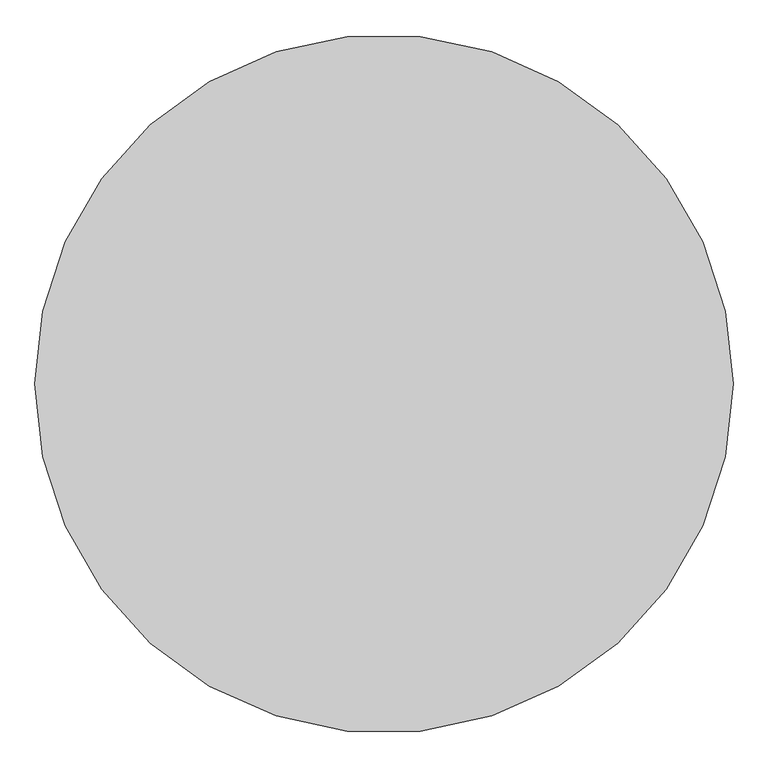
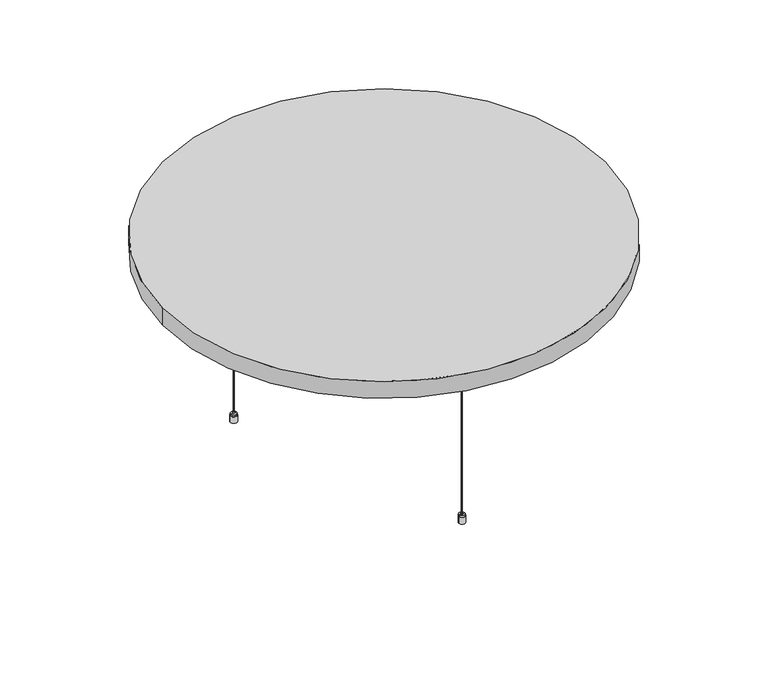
"""IFC4 building model written with IfcOpenShell, lengths in millimetres: proxy geometry, OWA Selecta : Selecta loop 1000."""

from ifc_helpers import new_model, si_unit, point, frame, frame_2d, origin, place, context, project, spatial, polyline, circle_curve, trimmed, segment, composite_curve, outline, extrude, source, transform, mapped, element, save
from ifc_brep_helpers import plane_surface, cylinder_surface, revolved_surface, advanced_brep


def specialty_equipment_8dedf9e6(model_context):
    return source(origin(), model_context, "Body", "SolidModel", [
        advanced_brep(
        [(-433.5, -305.0, 0.0), (-441.2406175, -305.0, 0.0), (-425.7593825, -305.0, 0.0), (-441.2406175, -305.0, 15.0), (-425.7593825, -305.0, 15.0), (-440.3156175, -305.0, 15.0), (-426.6843825, -305.0, 15.0), (-440.3156175, -305.0, 19.0), (-426.6843825, -305.0, 19.0), (-435.5656175, -305.0, 19.0), (-431.4343825, -305.0, 19.0), (-435.5656175, -305.0, 22.546183), (-431.4343825, -305.0, 22.546183), (-433.5, -305.0, 22.546183)],
        [
            (0, 1),
            (1, 2, circle_curve(frame((-433.5, -305.0, 0.0), z_axis=(0.0, 0.0, -1.0), x_axis=(-1.0, 0.0, 0.0)), 7.7406175)),
            (2, 0),
            (2, 1, circle_curve(frame((-433.5, -305.0, 0.0), z_axis=(0.0, 0.0, -1.0), x_axis=(-1.0, 0.0, 0.0)), 7.7406175)),
            (1, 3),
            (3, 4, circle_curve(frame((-433.5, -305.0, 15.0), z_axis=(0.0, 0.0, -1.0), x_axis=(-1.0, 0.0, 0.0)), 7.7406175)),
            (4, 2),
            (4, 3, circle_curve(frame((-433.5, -305.0, 15.0), z_axis=(0.0, 0.0, -1.0), x_axis=(-1.0, 0.0, 0.0)), 7.7406175)),
            (3, 5),
            (5, 6, circle_curve(frame((-433.5, -305.0, 15.0), z_axis=(0.0, 0.0, -1.0), x_axis=(-1.0, 0.0, 0.0)), 6.8156175)),
            (6, 4),
            (6, 5, circle_curve(frame((-433.5, -305.0, 15.0), z_axis=(0.0, 0.0, -1.0), x_axis=(-1.0, 0.0, 0.0)), 6.8156175)),
            (5, 7),
            (7, 8, circle_curve(frame((-433.5, -305.0, 19.0), z_axis=(0.0, 0.0, -1.0), x_axis=(-1.0, 0.0, 0.0)), 6.8156175)),
            (8, 6),
            (8, 7, circle_curve(frame((-433.5, -305.0, 19.0), z_axis=(0.0, 0.0, -1.0), x_axis=(-1.0, 0.0, 0.0)), 6.8156175)),
            (7, 9),
            (9, 10, circle_curve(frame((-433.5, -305.0, 19.0), z_axis=(0.0, 0.0, -1.0), x_axis=(-1.0, 0.0, 0.0)), 2.0656175)),
            (10, 8),
            (10, 9, circle_curve(frame((-433.5, -305.0, 19.0), z_axis=(0.0, 0.0, -1.0), x_axis=(-1.0, 0.0, 0.0)), 2.0656175)),
            (9, 11),
            (11, 12, circle_curve(frame((-433.5, -305.0, 22.546183), z_axis=(0.0, 0.0, -1.0), x_axis=(-1.0, 0.0, 0.0)), 2.0656175)),
            (12, 10),
            (12, 11, circle_curve(frame((-433.5, -305.0, 22.546183), z_axis=(0.0, 0.0, -1.0), x_axis=(-1.0, 0.0, 0.0)), 2.0656175)),
            (11, 13),
            (13, 12),
        ],
        [
            plane_surface(frame((-433.5, -305.0, 0.0), z_axis=(0.0, 0.0, -1.0), x_axis=(-1.0, 0.0, 0.0))),
            cylinder_surface(frame((-433.5, -305.0, -10.0), z_axis=(0.0, 0.0, -1.0), x_axis=(-1.0, 0.0, 0.0)), 7.7406175),
            plane_surface(frame((-433.5, -305.0, 15.0), z_axis=(0.0, 0.0, 1.0), x_axis=(-1.0, 0.0, 0.0))),
            cylinder_surface(frame((-433.5, -305.0, -10.0), z_axis=(0.0, 0.0, -1.0), x_axis=(-1.0, 0.0, 0.0)), 6.8156175),
            plane_surface(frame((-433.5, -305.0, 19.0), z_axis=(0.0, 0.0, 1.0), x_axis=(-1.0, 0.0, 0.0))),
            cylinder_surface(frame((-433.5, -305.0, -10.0), z_axis=(0.0, 0.0, -1.0), x_axis=(-1.0, 0.0, 0.0)), 2.0656175),
            plane_surface(frame((-433.5, -305.0, 22.546183), z_axis=(0.0, 0.0, 1.0), x_axis=(-1.0, 0.0, 0.0))),
        ],
        [
            (0, [[1, 2, 3]]),
            (0, [[-3, 4, -1]]),
            (1, [[-2, 5, 6, 7]]),
            (1, [[-4, -7, 8, -5]]),
            (2, [[-6, 9, 10, 11]]),
            (2, [[-8, -11, 12, -9]]),
            (3, [[-10, 13, 14, 15]]),
            (3, [[-12, -15, 16, -13]]),
            (4, [[-14, 17, 18, 19]]),
            (4, [[-16, -19, 20, -17]]),
            (5, [[-18, 21, 22, 23]]),
            (5, [[-20, -23, 24, -21]]),
            (6, [[-22, 25, 26]]),
            (6, [[-24, -26, -25]]),
        ],
    ),
        advanced_brep(
        [(-431.2615389, -305.0, 428.8211737), (-435.7384611, -305.0, 428.8211737), (-435.8660547, -305.0, 432.8711737), (-431.1339453, -305.0, 432.8711737), (-438.3660547, -305.0, 432.8711737), (-428.6339453, -305.0, 432.8711737), (-438.3660547, -305.0, 458.1211737), (-428.6339453, -305.0, 458.1211737), (-449.3660547, -305.0, 458.1211737), (-417.6339453, -305.0, 458.1211737), (-449.3660547, -305.0, 460.0), (-417.6339453, -305.0, 460.0), (-433.5, -305.0, 460.0), (-433.5, -305.0, 428.8211737)],
        [
            (0, 1, circle_curve(frame((-433.5, -305.0, 428.8211737), z_axis=(0.0, 0.0, 1.0), x_axis=(-1.0, 0.0, 0.0)), 2.2384611)),
            (1, 2),
            (2, 3, circle_curve(frame((-433.5, -305.0, 432.8711737), z_axis=(0.0, 0.0, -1.0), x_axis=(-1.0, 0.0, 0.0)), 2.3660547)),
            (3, 0),
            (1, 0, circle_curve(frame((-433.5, -305.0, 428.8211737), z_axis=(0.0, 0.0, 1.0), x_axis=(-1.0, 0.0, 0.0)), 2.2384611)),
            (3, 2, circle_curve(frame((-433.5, -305.0, 432.8711737), z_axis=(0.0, 0.0, -1.0), x_axis=(-1.0, 0.0, 0.0)), 2.3660547)),
            (2, 4),
            (4, 5, circle_curve(frame((-433.5, -305.0, 432.8711737), z_axis=(0.0, 0.0, -1.0), x_axis=(-1.0, 0.0, 0.0)), 4.8660547)),
            (5, 3),
            (5, 4, circle_curve(frame((-433.5, -305.0, 432.8711737), z_axis=(0.0, 0.0, -1.0), x_axis=(-1.0, 0.0, 0.0)), 4.8660547)),
            (4, 6),
            (6, 7, circle_curve(frame((-433.5, -305.0, 458.1211737), z_axis=(0.0, 0.0, -1.0), x_axis=(-1.0, 0.0, 0.0)), 4.8660547)),
            (7, 5),
            (7, 6, circle_curve(frame((-433.5, -305.0, 458.1211737), z_axis=(0.0, 0.0, -1.0), x_axis=(-1.0, 0.0, 0.0)), 4.8660547)),
            (6, 8),
            (8, 9, circle_curve(frame((-433.5, -305.0, 458.1211737), z_axis=(0.0, 0.0, -1.0), x_axis=(-1.0, 0.0, 0.0)), 15.8660547)),
            (9, 7),
            (9, 8, circle_curve(frame((-433.5, -305.0, 458.1211737), z_axis=(0.0, 0.0, -1.0), x_axis=(-1.0, 0.0, 0.0)), 15.8660547)),
            (8, 10),
            (10, 11, circle_curve(frame((-433.5, -305.0, 460.0), z_axis=(0.0, 0.0, -1.0), x_axis=(-1.0, 0.0, 0.0)), 15.8660547)),
            (11, 9),
            (11, 10, circle_curve(frame((-433.5, -305.0, 460.0), z_axis=(0.0, 0.0, -1.0), x_axis=(-1.0, 0.0, 0.0)), 15.8660547)),
            (10, 12),
            (12, 11),
            (13, 1),
            (0, 13),
        ],
        [
            revolved_surface(polyline([(-435.8660547, -305.0, 432.8711737), (-435.7384611, -305.0, 428.8211737)]), (-433.5, -305.0, 461.8401096), (0.0, 0.0, -1.0)),
            plane_surface(frame((-433.5, -305.0, 432.8711737), z_axis=(0.0, 0.0, -1.0), x_axis=(-1.0, 0.0, 0.0))),
            cylinder_surface(frame((-433.5, -305.0, 461.8401096), z_axis=(0.0, 0.0, -1.0), x_axis=(-1.0, 0.0, 0.0)), 4.8660547),
            plane_surface(frame((-433.5, -305.0, 458.1211737), z_axis=(0.0, 0.0, -1.0), x_axis=(-1.0, 0.0, 0.0))),
            cylinder_surface(frame((-433.5, -305.0, 461.8401096), z_axis=(0.0, 0.0, -1.0), x_axis=(-1.0, 0.0, 0.0)), 15.8660547),
            plane_surface(frame((-433.5, -305.0, 460.0), z_axis=(0.0, 0.0, 1.0), x_axis=(-1.0, 0.0, 0.0))),
            plane_surface(frame((-433.5, -305.0, 428.8211737), z_axis=(0.0, 0.0, -1.0), x_axis=(-1.0, 0.0, 0.0))),
        ],
        [
            (0, [[1, 2, 3, 4]]),
            (0, [[5, -4, 6, -2]]),
            (1, [[-3, 7, 8, 9]]),
            (1, [[-6, -9, 10, -7]]),
            (2, [[-8, 11, 12, 13]]),
            (2, [[-10, -13, 14, -11]]),
            (3, [[-12, 15, 16, 17]]),
            (3, [[-14, -17, 18, -15]]),
            (4, [[-16, 19, 20, 21]]),
            (4, [[-18, -21, 22, -19]]),
            (5, [[-20, 23, 24]]),
            (5, [[-22, -24, -23]]),
            (6, [[25, -1, 26]]),
            (6, [[-26, -5, -25]]),
        ],
    ),
        extrude(outline(composite_curve([segment(trimmed(circle_curve(frame_2d((-433.5, -305.0)), 1.0), [point((-434.5, -305.0))], [point((-432.5, -305.0))], False, "CARTESIAN"), True, "CONTINUOUS"), segment(trimmed(circle_curve(frame_2d((-433.5, -305.0)), 1.0), [point((-432.5, -305.0))], [point((-434.5, -305.0))], False, "CARTESIAN"), True, "CONTINUOUS")], self_intersect=False)), frame((0.0, 0.0, 22.546183), z_axis=(0.0, 0.0, 1.0), x_axis=(1.0, 0.0, 0.0)), (0.0, 0.0, 1.0), 406.2749908),
        advanced_brep(
        [(-648.5, 216.0, 0.0), (-640.7593825, 216.0, 0.0), (-656.2406175, 216.0, 0.0), (-640.7593825, 216.0, 15.0), (-656.2406175, 216.0, 15.0), (-641.6843825, 216.0, 15.0), (-655.3156175, 216.0, 15.0), (-641.6843825, 216.0, 19.0), (-655.3156175, 216.0, 19.0), (-646.4343825, 216.0, 19.0), (-650.5656175, 216.0, 19.0), (-646.4343825, 216.0, 22.546183), (-650.5656175, 216.0, 22.546183), (-648.5, 216.0, 22.546183)],
        [
            (0, 1),
            (1, 2, circle_curve(frame((-648.5, 216.0, 0.0), z_axis=(0.0, 0.0, -1.0), x_axis=(-1.0, 0.0, 0.0)), 7.7406175)),
            (2, 0),
            (2, 1, circle_curve(frame((-648.5, 216.0, 0.0), z_axis=(0.0, 0.0, -1.0), x_axis=(-1.0, 0.0, 0.0)), 7.7406175)),
            (1, 3),
            (3, 4, circle_curve(frame((-648.5, 216.0, 15.0), z_axis=(0.0, 0.0, -1.0), x_axis=(-1.0, 0.0, 0.0)), 7.7406175)),
            (4, 2),
            (4, 3, circle_curve(frame((-648.5, 216.0, 15.0), z_axis=(0.0, 0.0, -1.0), x_axis=(-1.0, 0.0, 0.0)), 7.7406175)),
            (3, 5),
            (5, 6, circle_curve(frame((-648.5, 216.0, 15.0), z_axis=(0.0, 0.0, -1.0), x_axis=(-1.0, 0.0, 0.0)), 6.8156175)),
            (6, 4),
            (6, 5, circle_curve(frame((-648.5, 216.0, 15.0), z_axis=(0.0, 0.0, -1.0), x_axis=(-1.0, 0.0, 0.0)), 6.8156175)),
            (5, 7),
            (7, 8, circle_curve(frame((-648.5, 216.0, 19.0), z_axis=(0.0, 0.0, -1.0), x_axis=(-1.0, 0.0, 0.0)), 6.8156175)),
            (8, 6),
            (8, 7, circle_curve(frame((-648.5, 216.0, 19.0), z_axis=(0.0, 0.0, -1.0), x_axis=(-1.0, 0.0, 0.0)), 6.8156175)),
            (7, 9),
            (9, 10, circle_curve(frame((-648.5, 216.0, 19.0), z_axis=(0.0, 0.0, -1.0), x_axis=(-1.0, 0.0, 0.0)), 2.0656175)),
            (10, 8),
            (10, 9, circle_curve(frame((-648.5, 216.0, 19.0), z_axis=(0.0, 0.0, -1.0), x_axis=(-1.0, 0.0, 0.0)), 2.0656175)),
            (9, 11),
            (11, 12, circle_curve(frame((-648.5, 216.0, 22.546183), z_axis=(0.0, 0.0, -1.0), x_axis=(-1.0, 0.0, 0.0)), 2.0656175)),
            (12, 10),
            (12, 11, circle_curve(frame((-648.5, 216.0, 22.546183), z_axis=(0.0, 0.0, -1.0), x_axis=(-1.0, 0.0, 0.0)), 2.0656175)),
            (11, 13),
            (13, 12),
        ],
        [
            plane_surface(frame((-648.5, 216.0, 0.0), z_axis=(0.0, 0.0, -1.0), x_axis=(-1.0, 0.0, 0.0))),
            cylinder_surface(frame((-648.5, 216.0, -10.0), z_axis=(0.0, 0.0, -1.0), x_axis=(-1.0, 0.0, 0.0)), 7.7406175),
            plane_surface(frame((-648.5, 216.0, 15.0), z_axis=(0.0, 0.0, 1.0), x_axis=(-1.0, 0.0, 0.0))),
            cylinder_surface(frame((-648.5, 216.0, -10.0), z_axis=(0.0, 0.0, -1.0), x_axis=(-1.0, 0.0, 0.0)), 6.8156175),
            plane_surface(frame((-648.5, 216.0, 19.0), z_axis=(0.0, 0.0, 1.0), x_axis=(-1.0, 0.0, 0.0))),
            cylinder_surface(frame((-648.5, 216.0, -10.0), z_axis=(0.0, 0.0, -1.0), x_axis=(-1.0, 0.0, 0.0)), 2.0656175),
            plane_surface(frame((-648.5, 216.0, 22.546183), z_axis=(0.0, 0.0, 1.0), x_axis=(-1.0, 0.0, 0.0))),
        ],
        [
            (0, [[1, 2, 3]]),
            (0, [[-3, 4, -1]]),
            (1, [[5, 6, 7, -2]]),
            (1, [[-7, 8, -5, -4]]),
            (2, [[9, 10, 11, -6]]),
            (2, [[-11, 12, -9, -8]]),
            (3, [[13, 14, 15, -10]]),
            (3, [[-15, 16, -13, -12]]),
            (4, [[17, 18, 19, -14]]),
            (4, [[-19, 20, -17, -16]]),
            (5, [[21, 22, 23, -18]]),
            (5, [[-23, 24, -21, -20]]),
            (6, [[25, 26, -22]]),
            (6, [[-26, -25, -24]]),
        ],
    ),
        advanced_brep(
        [(-646.2615389, 216.0, 428.8211737), (-646.1339453, 216.0, 432.8711737), (-650.8660547, 216.0, 432.8711737), (-650.7384611, 216.0, 428.8211737), (-643.6339453, 216.0, 432.8711737), (-653.3660547, 216.0, 432.8711737), (-643.6339453, 216.0, 458.1211737), (-653.3660547, 216.0, 458.1211737), (-632.6339453, 216.0, 458.1211737), (-664.3660547, 216.0, 458.1211737), (-632.6339453, 216.0, 460.0), (-664.3660547, 216.0, 460.0), (-648.5, 216.0, 460.0), (-648.5, 216.0, 428.8211737)],
        [
            (0, 1),
            (1, 2, circle_curve(frame((-648.5, 216.0, 432.8711737), z_axis=(0.0, 0.0, -1.0), x_axis=(-1.0, 0.0, 0.0)), 2.3660547)),
            (2, 3),
            (3, 0, circle_curve(frame((-648.5, 216.0, 428.8211737), z_axis=(0.0, 0.0, 1.0), x_axis=(-1.0, 0.0, 0.0)), 2.2384611)),
            (2, 1, circle_curve(frame((-648.5, 216.0, 432.8711737), z_axis=(0.0, 0.0, -1.0), x_axis=(-1.0, 0.0, 0.0)), 2.3660547)),
            (0, 3, circle_curve(frame((-648.5, 216.0, 428.8211737), z_axis=(0.0, 0.0, 1.0), x_axis=(-1.0, 0.0, 0.0)), 2.2384611)),
            (1, 4),
            (4, 5, circle_curve(frame((-648.5, 216.0, 432.8711737), z_axis=(0.0, 0.0, -1.0), x_axis=(-1.0, 0.0, 0.0)), 4.8660547)),
            (5, 2),
            (5, 4, circle_curve(frame((-648.5, 216.0, 432.8711737), z_axis=(0.0, 0.0, -1.0), x_axis=(-1.0, 0.0, 0.0)), 4.8660547)),
            (4, 6),
            (6, 7, circle_curve(frame((-648.5, 216.0, 458.1211737), z_axis=(0.0, 0.0, -1.0), x_axis=(-1.0, 0.0, 0.0)), 4.8660547)),
            (7, 5),
            (7, 6, circle_curve(frame((-648.5, 216.0, 458.1211737), z_axis=(0.0, 0.0, -1.0), x_axis=(-1.0, 0.0, 0.0)), 4.8660547)),
            (6, 8),
            (8, 9, circle_curve(frame((-648.5, 216.0, 458.1211737), z_axis=(0.0, 0.0, -1.0), x_axis=(-1.0, 0.0, 0.0)), 15.8660547)),
            (9, 7),
            (9, 8, circle_curve(frame((-648.5, 216.0, 458.1211737), z_axis=(0.0, 0.0, -1.0), x_axis=(-1.0, 0.0, 0.0)), 15.8660547)),
            (8, 10),
            (10, 11, circle_curve(frame((-648.5, 216.0, 460.0), z_axis=(0.0, 0.0, -1.0), x_axis=(-1.0, 0.0, 0.0)), 15.8660547)),
            (11, 9),
            (11, 10, circle_curve(frame((-648.5, 216.0, 460.0), z_axis=(0.0, 0.0, -1.0), x_axis=(-1.0, 0.0, 0.0)), 15.8660547)),
            (10, 12),
            (12, 11),
            (13, 0),
            (3, 13),
        ],
        [
            revolved_surface(polyline([(-650.8660547, 216.0, 432.8711737), (-650.7384611, 216.0, 428.8211737)]), (-648.5, 216.0, 461.8401096), (0.0, 0.0, -1.0)),
            plane_surface(frame((-648.5, 216.0, 432.8711737), z_axis=(0.0, 0.0, -1.0), x_axis=(-1.0, 0.0, 0.0))),
            cylinder_surface(frame((-648.5, 216.0, 461.8401096), z_axis=(0.0, 0.0, -1.0), x_axis=(-1.0, 0.0, 0.0)), 4.8660547),
            plane_surface(frame((-648.5, 216.0, 458.1211737), z_axis=(0.0, 0.0, -1.0), x_axis=(-1.0, 0.0, 0.0))),
            cylinder_surface(frame((-648.5, 216.0, 461.8401096), z_axis=(0.0, 0.0, -1.0), x_axis=(-1.0, 0.0, 0.0)), 15.8660547),
            plane_surface(frame((-648.5, 216.0, 460.0), z_axis=(0.0, 0.0, 1.0), x_axis=(-1.0, 0.0, 0.0))),
            plane_surface(frame((-648.5, 216.0, 428.8211737), z_axis=(0.0, 0.0, -1.0), x_axis=(-1.0, 0.0, 0.0))),
        ],
        [
            (0, [[1, 2, 3, 4]]),
            (0, [[-3, 5, -1, 6]]),
            (1, [[7, 8, 9, -2]]),
            (1, [[-9, 10, -7, -5]]),
            (2, [[11, 12, 13, -8]]),
            (2, [[-13, 14, -11, -10]]),
            (3, [[15, 16, 17, -12]]),
            (3, [[-17, 18, -15, -14]]),
            (4, [[19, 20, 21, -16]]),
            (4, [[-21, 22, -19, -18]]),
            (5, [[23, 24, -20]]),
            (5, [[-24, -23, -22]]),
            (6, [[25, -4, 26]]),
            (6, [[-26, -6, -25]]),
        ],
    ),
        extrude(outline(composite_curve([segment(trimmed(circle_curve(frame_2d((-648.5, 216.0)), 1.0), [point((-649.5, 216.0))], [point((-647.5, 216.0))], False, "CARTESIAN"), True, "CONTINUOUS"), segment(trimmed(circle_curve(frame_2d((-648.5, 216.0)), 1.0), [point((-647.5, 216.0))], [point((-649.5, 216.0))], False, "CARTESIAN"), True, "CONTINUOUS")], self_intersect=False)), frame((0.0, 0.0, 22.546183), z_axis=(0.0, 0.0, 1.0), x_axis=(1.0, 0.0, 0.0)), (0.0, 0.0, 1.0), 406.2749908),
        advanced_brep(
        [(-218.5, 216.0, 0.0), (-226.2406175, 216.0, 0.0), (-210.7593825, 216.0, 0.0), (-226.2406175, 216.0, 15.0), (-210.7593825, 216.0, 15.0), (-225.3156175, 216.0, 15.0), (-211.6843825, 216.0, 15.0), (-225.3156175, 216.0, 19.0), (-211.6843825, 216.0, 19.0), (-220.5656175, 216.0, 19.0), (-216.4343825, 216.0, 19.0), (-220.5656175, 216.0, 22.546183), (-216.4343825, 216.0, 22.546183), (-218.5, 216.0, 22.546183)],
        [
            (0, 1),
            (1, 2, circle_curve(frame((-218.5, 216.0, 0.0), z_axis=(0.0, 0.0, -1.0), x_axis=(-1.0, 0.0, 0.0)), 7.7406175)),
            (2, 0),
            (2, 1, circle_curve(frame((-218.5, 216.0, 0.0), z_axis=(0.0, 0.0, -1.0), x_axis=(-1.0, 0.0, 0.0)), 7.7406175)),
            (1, 3),
            (3, 4, circle_curve(frame((-218.5, 216.0, 15.0), z_axis=(0.0, 0.0, -1.0), x_axis=(-1.0, 0.0, 0.0)), 7.7406175)),
            (4, 2),
            (4, 3, circle_curve(frame((-218.5, 216.0, 15.0), z_axis=(0.0, 0.0, -1.0), x_axis=(-1.0, 0.0, 0.0)), 7.7406175)),
            (3, 5),
            (5, 6, circle_curve(frame((-218.5, 216.0, 15.0), z_axis=(0.0, 0.0, -1.0), x_axis=(-1.0, 0.0, 0.0)), 6.8156175)),
            (6, 4),
            (6, 5, circle_curve(frame((-218.5, 216.0, 15.0), z_axis=(0.0, 0.0, -1.0), x_axis=(-1.0, 0.0, 0.0)), 6.8156175)),
            (5, 7),
            (7, 8, circle_curve(frame((-218.5, 216.0, 19.0), z_axis=(0.0, 0.0, -1.0), x_axis=(-1.0, 0.0, 0.0)), 6.8156175)),
            (8, 6),
            (8, 7, circle_curve(frame((-218.5, 216.0, 19.0), z_axis=(0.0, 0.0, -1.0), x_axis=(-1.0, 0.0, 0.0)), 6.8156175)),
            (7, 9),
            (9, 10, circle_curve(frame((-218.5, 216.0, 19.0), z_axis=(0.0, 0.0, -1.0), x_axis=(-1.0, 0.0, 0.0)), 2.0656175)),
            (10, 8),
            (10, 9, circle_curve(frame((-218.5, 216.0, 19.0), z_axis=(0.0, 0.0, -1.0), x_axis=(-1.0, 0.0, 0.0)), 2.0656175)),
            (9, 11),
            (11, 12, circle_curve(frame((-218.5, 216.0, 22.546183), z_axis=(0.0, 0.0, -1.0), x_axis=(-1.0, 0.0, 0.0)), 2.0656175)),
            (12, 10),
            (12, 11, circle_curve(frame((-218.5, 216.0, 22.546183), z_axis=(0.0, 0.0, -1.0), x_axis=(-1.0, 0.0, 0.0)), 2.0656175)),
            (11, 13),
            (13, 12),
        ],
        [
            plane_surface(frame((-218.5, 216.0, 0.0), z_axis=(0.0, 0.0, -1.0), x_axis=(-1.0, 0.0, 0.0))),
            cylinder_surface(frame((-218.5, 216.0, -10.0), z_axis=(0.0, 0.0, -1.0), x_axis=(-1.0, 0.0, 0.0)), 7.7406175),
            plane_surface(frame((-218.5, 216.0, 15.0), z_axis=(0.0, 0.0, 1.0), x_axis=(-1.0, 0.0, 0.0))),
            cylinder_surface(frame((-218.5, 216.0, -10.0), z_axis=(0.0, 0.0, -1.0), x_axis=(-1.0, 0.0, 0.0)), 6.8156175),
            plane_surface(frame((-218.5, 216.0, 19.0), z_axis=(0.0, 0.0, 1.0), x_axis=(-1.0, 0.0, 0.0))),
            cylinder_surface(frame((-218.5, 216.0, -10.0), z_axis=(0.0, 0.0, -1.0), x_axis=(-1.0, 0.0, 0.0)), 2.0656175),
            plane_surface(frame((-218.5, 216.0, 22.546183), z_axis=(0.0, 0.0, 1.0), x_axis=(-1.0, 0.0, 0.0))),
        ],
        [
            (0, [[1, 2, 3]]),
            (0, [[-3, 4, -1]]),
            (1, [[-2, 5, 6, 7]]),
            (1, [[-4, -7, 8, -5]]),
            (2, [[-6, 9, 10, 11]]),
            (2, [[-8, -11, 12, -9]]),
            (3, [[-10, 13, 14, 15]]),
            (3, [[-12, -15, 16, -13]]),
            (4, [[-14, 17, 18, 19]]),
            (4, [[-16, -19, 20, -17]]),
            (5, [[-18, 21, 22, 23]]),
            (5, [[-20, -23, 24, -21]]),
            (6, [[-22, 25, 26]]),
            (6, [[-24, -26, -25]]),
        ],
    ),
        advanced_brep(
        [(-216.2615389, 216.0, 428.8211737), (-220.7384611, 216.0, 428.8211737), (-220.8660547, 216.0, 432.8711737), (-216.1339453, 216.0, 432.8711737), (-223.3660547, 216.0, 432.8711737), (-213.6339453, 216.0, 432.8711737), (-223.3660547, 216.0, 458.1211737), (-213.6339453, 216.0, 458.1211737), (-234.3660547, 216.0, 458.1211737), (-202.6339453, 216.0, 458.1211737), (-234.3660547, 216.0, 460.0), (-202.6339453, 216.0, 460.0), (-218.5, 216.0, 460.0), (-218.5, 216.0, 428.8211737)],
        [
            (0, 1, circle_curve(frame((-218.5, 216.0, 428.8211737), z_axis=(0.0, 0.0, 1.0), x_axis=(-1.0, 0.0, 0.0)), 2.2384611)),
            (1, 2),
            (2, 3, circle_curve(frame((-218.5, 216.0, 432.8711737), z_axis=(0.0, 0.0, -1.0), x_axis=(-1.0, 0.0, 0.0)), 2.3660547)),
            (3, 0),
            (1, 0, circle_curve(frame((-218.5, 216.0, 428.8211737), z_axis=(0.0, 0.0, 1.0), x_axis=(-1.0, 0.0, 0.0)), 2.2384611)),
            (3, 2, circle_curve(frame((-218.5, 216.0, 432.8711737), z_axis=(0.0, 0.0, -1.0), x_axis=(-1.0, 0.0, 0.0)), 2.3660547)),
            (2, 4),
            (4, 5, circle_curve(frame((-218.5, 216.0, 432.8711737), z_axis=(0.0, 0.0, -1.0), x_axis=(-1.0, 0.0, 0.0)), 4.8660547)),
            (5, 3),
            (5, 4, circle_curve(frame((-218.5, 216.0, 432.8711737), z_axis=(0.0, 0.0, -1.0), x_axis=(-1.0, 0.0, 0.0)), 4.8660547)),
            (4, 6),
            (6, 7, circle_curve(frame((-218.5, 216.0, 458.1211737), z_axis=(0.0, 0.0, -1.0), x_axis=(-1.0, 0.0, 0.0)), 4.8660547)),
            (7, 5),
            (7, 6, circle_curve(frame((-218.5, 216.0, 458.1211737), z_axis=(0.0, 0.0, -1.0), x_axis=(-1.0, 0.0, 0.0)), 4.8660547)),
            (6, 8),
            (8, 9, circle_curve(frame((-218.5, 216.0, 458.1211737), z_axis=(0.0, 0.0, -1.0), x_axis=(-1.0, 0.0, 0.0)), 15.8660547)),
            (9, 7),
            (9, 8, circle_curve(frame((-218.5, 216.0, 458.1211737), z_axis=(0.0, 0.0, -1.0), x_axis=(-1.0, 0.0, 0.0)), 15.8660547)),
            (8, 10),
            (10, 11, circle_curve(frame((-218.5, 216.0, 460.0), z_axis=(0.0, 0.0, -1.0), x_axis=(-1.0, 0.0, 0.0)), 15.8660547)),
            (11, 9),
            (11, 10, circle_curve(frame((-218.5, 216.0, 460.0), z_axis=(0.0, 0.0, -1.0), x_axis=(-1.0, 0.0, 0.0)), 15.8660547)),
            (10, 12),
            (12, 11),
            (13, 1),
            (0, 13),
        ],
        [
            revolved_surface(polyline([(-220.8660547, 216.0, 432.8711737), (-220.7384611, 216.0, 428.8211737)]), (-218.5, 216.0, 461.8401096), (0.0, 0.0, -1.0)),
            plane_surface(frame((-218.5, 216.0, 432.8711737), z_axis=(0.0, 0.0, -1.0), x_axis=(-1.0, 0.0, 0.0))),
            cylinder_surface(frame((-218.5, 216.0, 461.8401096), z_axis=(0.0, 0.0, -1.0), x_axis=(-1.0, 0.0, 0.0)), 4.8660547),
            plane_surface(frame((-218.5, 216.0, 458.1211737), z_axis=(0.0, 0.0, -1.0), x_axis=(-1.0, 0.0, 0.0))),
            cylinder_surface(frame((-218.5, 216.0, 461.8401096), z_axis=(0.0, 0.0, -1.0), x_axis=(-1.0, 0.0, 0.0)), 15.8660547),
            plane_surface(frame((-218.5, 216.0, 460.0), z_axis=(0.0, 0.0, 1.0), x_axis=(-1.0, 0.0, 0.0))),
            plane_surface(frame((-218.5, 216.0, 428.8211737), z_axis=(0.0, 0.0, -1.0), x_axis=(-1.0, 0.0, 0.0))),
        ],
        [
            (0, [[1, 2, 3, 4]]),
            (0, [[5, -4, 6, -2]]),
            (1, [[-3, 7, 8, 9]]),
            (1, [[-6, -9, 10, -7]]),
            (2, [[-8, 11, 12, 13]]),
            (2, [[-10, -13, 14, -11]]),
            (3, [[-12, 15, 16, 17]]),
            (3, [[-14, -17, 18, -15]]),
            (4, [[-16, 19, 20, 21]]),
            (4, [[-18, -21, 22, -19]]),
            (5, [[-20, 23, 24]]),
            (5, [[-22, -24, -23]]),
            (6, [[25, -1, 26]]),
            (6, [[-26, -5, -25]]),
        ],
    ),
        extrude(outline(composite_curve([segment(trimmed(circle_curve(frame_2d((-218.5, 216.0)), 1.0), [point((-219.5, 216.0))], [point((-217.5, 216.0))], False, "CARTESIAN"), True, "CONTINUOUS"), segment(trimmed(circle_curve(frame_2d((-218.5, 216.0)), 1.0), [point((-217.5, 216.0))], [point((-219.5, 216.0))], False, "CARTESIAN"), True, "CONTINUOUS")], self_intersect=False)), frame((0.0, 0.0, 22.546183), z_axis=(0.0, 0.0, 1.0), x_axis=(1.0, 0.0, 0.0)), (0.0, 0.0, 1.0), 406.2749908),
        extrude(outline(composite_curve([segment(trimmed(circle_curve(frame_2d((-433.5, 0.0)), 500.0), [point((-933.5, 0.0))], [point((66.5, 0.0))], False, "CARTESIAN"), True, "CONTINUOUS"), segment(trimmed(circle_curve(frame_2d((-433.5, 0.0)), 500.0), [point((66.5, 0.0))], [point((-933.5, 0.0))], False, "CARTESIAN"), True, "CONTINUOUS")], self_intersect=False)), frame((0.0, 0.0, 460.0), z_axis=(0.0, 0.0, 1.0), x_axis=(1.0, 0.0, 0.0)), (0.0, 0.0, 1.0), 40.0),
    ])


if __name__ == "__main__":
    model = new_model("IFC4")
    model_context = context("Model", 3, world=origin())
    ifc_project = project(units=[si_unit("LENGTHUNIT", "METRE", prefix="MILLI")], contexts=[model_context])
    site = spatial("IfcSite", under=ifc_project)
    building = spatial("IfcBuilding", under=site)
    placement = place(None, origin())
    specialty_equipment_shape = specialty_equipment_8dedf9e6(model_context)
    element("IfcBuildingElementProxy", 1, Name="OWA Selecta : Selecta loop 1000", ObjectType="OWA Selecta : Selecta loop 1000", at=placement, inside=building, context=model_context, shape_type="MappedRepresentation", body=[
        mapped(specialty_equipment_shape, transform((0.0, 0.0, 0.0), x_axis=(1.0, 0.0, 0.0), y_axis=(0.0, 1.0, 0.0), z_axis=(0.0, 0.0, 1.0))),
    ])
    save(model, "model.ifc")
